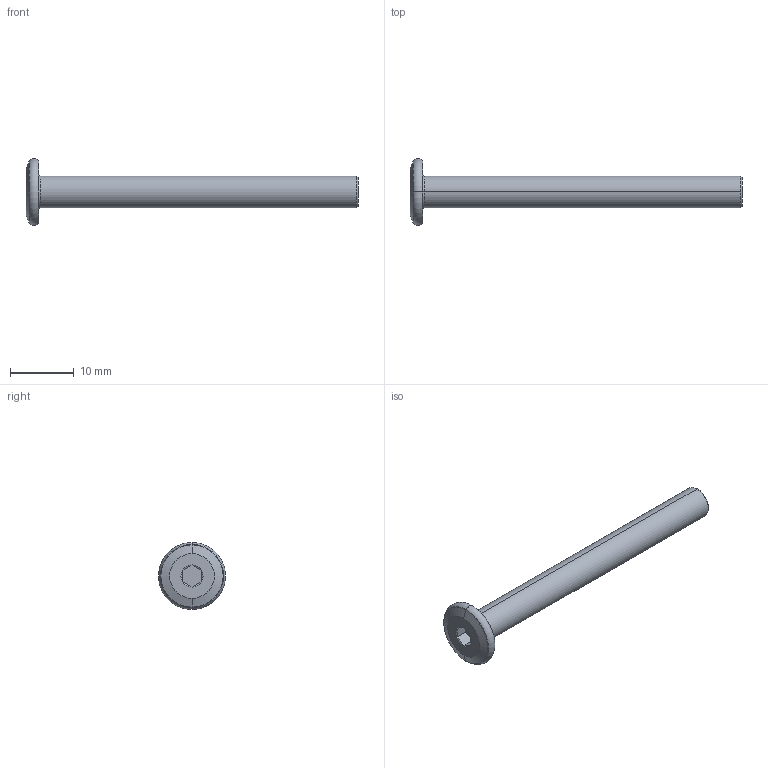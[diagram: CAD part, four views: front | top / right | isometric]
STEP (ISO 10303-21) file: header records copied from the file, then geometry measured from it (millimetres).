
FILE_DESCRIPTION (( 'STEP AP203' ), '1' );
FILE_NAME ('LGD-304D-M5x50.STEP', '2026-08-13T07:34:53', ( '' ), ( '' ), 'SwSTEP 2.0', 'SolidWorks 2020', '' );
FILE_SCHEMA (( 'CONFIG_CONTROL_DESIGN' ));
Length unit declared in the file: millimetre
Products named in the file (1): LGD-304D-M5x50
Bounding box: 52 x 10.5 x 10.5 mm (x, y, z)
Volume: 1118.4 mm3; surface area: 1009.6 mm2
Topology: 1 solids, 1 shells, 30 faces, 56 edges, 30 vertices
Faces by surface type: cone 10, plane 10, torus 8, cylinder 2
Entity records: 835 total; most frequent: CARTESIAN_POINT 151, DIRECTION 144, ORIENTED_EDGE 112, AXIS2_PLACEMENT_3D 63, EDGE_CURVE 56, CIRCLE 32, EDGE_LOOP 32, FACE_OUTER_BOUND 30
